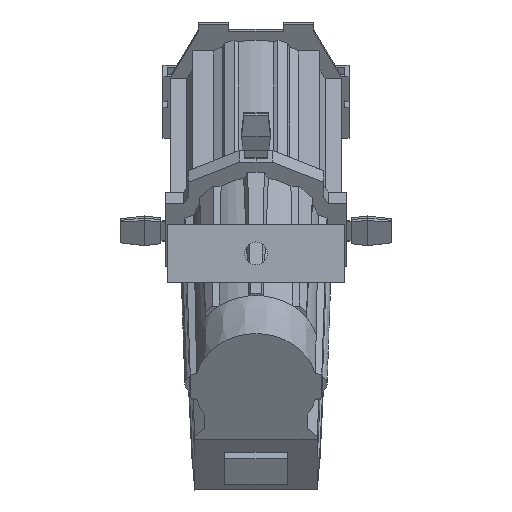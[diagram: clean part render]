
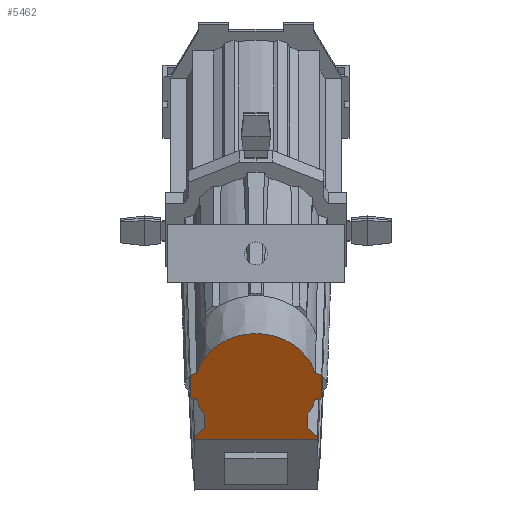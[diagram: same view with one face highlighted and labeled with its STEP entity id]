
A CAD part, left-side view. The second image highlights one B-rep face of the part: STEP entity #5462.
In plain terms, the highlighted planar face has unit normal (-0.866, 0, -0.5) as drawn and (0, 0, -1) by its records, which use the part's own axes.
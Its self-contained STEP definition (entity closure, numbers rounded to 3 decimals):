
#127=B_SPLINE_CURVE_WITH_KNOTS('',3,(#11054,#11055,#11056,#11057),
 .UNSPECIFIED.,.F.,.F.,(4,4),(0.001,0.141),
 .UNSPECIFIED.);
#128=B_SPLINE_CURVE_WITH_KNOTS('',3,(#11069,#11070,#11071,#11072,#11073,
#11074),.UNSPECIFIED.,.F.,.F.,(4,2,4),(0.045,0.221,
0.379),.UNSPECIFIED.);
#129=B_SPLINE_CURVE_WITH_KNOTS('',3,(#11088,#11089,#11090,#11091,#11092,
#11093),.UNSPECIFIED.,.F.,.F.,(4,2,4),(-0.932,-0.804,
-0.253),.UNSPECIFIED.);
#130=B_SPLINE_CURVE_WITH_KNOTS('',3,(#11094,#11095,#11096,#11097),
 .UNSPECIFIED.,.F.,.F.,(4,4),(-1.899,-1.761),
 .UNSPECIFIED.);
#388=FACE_OUTER_BOUND('',#690,.T.);
#690=EDGE_LOOP('',(#4378,#4379,#4380,#4381,#4382,#4383,#4384,#4385,#4386,
#4387,#4388,#4389,#4390,#4391,#4392,#4393,#4394));
#829=CIRCLE('',#5789,29.214);
#830=CIRCLE('',#5790,29.215);
#831=CIRCLE('',#5791,29.214);
#1263=LINE('',#11050,#1912);
#1264=LINE('',#11052,#1913);
#1265=LINE('',#11059,#1914);
#1266=LINE('',#11061,#1915);
#1267=LINE('',#11065,#1916);
#1268=LINE('',#11067,#1917);
#1269=LINE('',#11078,#1918);
#1270=LINE('',#11080,#1919);
#1271=LINE('',#11082,#1920);
#1272=LINE('',#11086,#1921);
#1912=VECTOR('',#6690,10.);
#1913=VECTOR('',#6691,10.);
#1914=VECTOR('',#6692,10.);
#1915=VECTOR('',#6693,10.);
#1916=VECTOR('',#6696,10.);
#1917=VECTOR('',#6697,10.);
#1918=VECTOR('',#6700,10.);
#1919=VECTOR('',#6701,10.);
#1920=VECTOR('',#6702,10.);
#1921=VECTOR('',#6705,10.);
#2475=VERTEX_POINT('',#11048);
#2476=VERTEX_POINT('',#11049);
#2477=VERTEX_POINT('',#11051);
#2478=VERTEX_POINT('',#11053);
#2479=VERTEX_POINT('',#11058);
#2480=VERTEX_POINT('',#11060);
#2481=VERTEX_POINT('',#11062);
#2482=VERTEX_POINT('',#11064);
#2483=VERTEX_POINT('',#11066);
#2484=VERTEX_POINT('',#11068);
#2485=VERTEX_POINT('',#11075);
#2486=VERTEX_POINT('',#11077);
#2487=VERTEX_POINT('',#11079);
#2488=VERTEX_POINT('',#11081);
#2489=VERTEX_POINT('',#11083);
#2490=VERTEX_POINT('',#11085);
#2491=VERTEX_POINT('',#11087);
#3155=EDGE_CURVE('',#2475,#2476,#1263,.T.);
#3156=EDGE_CURVE('',#2475,#2477,#1264,.T.);
#3157=EDGE_CURVE('',#2478,#2477,#127,.T.);
#3158=EDGE_CURVE('',#2478,#2479,#1265,.T.);
#3159=EDGE_CURVE('',#2479,#2480,#1266,.T.);
#3160=EDGE_CURVE('',#2480,#2481,#829,.T.);
#3161=EDGE_CURVE('',#2481,#2482,#1267,.T.);
#3162=EDGE_CURVE('',#2482,#2483,#1268,.T.);
#3163=EDGE_CURVE('',#2484,#2483,#128,.T.);
#3164=EDGE_CURVE('',#2484,#2485,#830,.T.);
#3165=EDGE_CURVE('',#2485,#2486,#1269,.T.);
#3166=EDGE_CURVE('',#2487,#2486,#1270,.T.);
#3167=EDGE_CURVE('',#2487,#2488,#1271,.T.);
#3168=EDGE_CURVE('',#2488,#2489,#831,.T.);
#3169=EDGE_CURVE('',#2489,#2490,#1272,.T.);
#3170=EDGE_CURVE('',#2490,#2491,#129,.T.);
#3171=EDGE_CURVE('',#2476,#2491,#130,.F.);
#4378=ORIENTED_EDGE('',*,*,#3155,.F.);
#4379=ORIENTED_EDGE('',*,*,#3156,.T.);
#4380=ORIENTED_EDGE('',*,*,#3157,.F.);
#4381=ORIENTED_EDGE('',*,*,#3158,.T.);
#4382=ORIENTED_EDGE('',*,*,#3159,.T.);
#4383=ORIENTED_EDGE('',*,*,#3160,.T.);
#4384=ORIENTED_EDGE('',*,*,#3161,.T.);
#4385=ORIENTED_EDGE('',*,*,#3162,.T.);
#4386=ORIENTED_EDGE('',*,*,#3163,.F.);
#4387=ORIENTED_EDGE('',*,*,#3164,.T.);
#4388=ORIENTED_EDGE('',*,*,#3165,.T.);
#4389=ORIENTED_EDGE('',*,*,#3166,.F.);
#4390=ORIENTED_EDGE('',*,*,#3167,.T.);
#4391=ORIENTED_EDGE('',*,*,#3168,.T.);
#4392=ORIENTED_EDGE('',*,*,#3169,.T.);
#4393=ORIENTED_EDGE('',*,*,#3170,.T.);
#4394=ORIENTED_EDGE('',*,*,#3171,.F.);
#5194=PLANE('',#5788);
#5462=ADVANCED_FACE('',(#388),#5194,.F.);
#5788=AXIS2_PLACEMENT_3D('',#11047,#6688,#6689);
#5789=AXIS2_PLACEMENT_3D('',#11063,#6694,#6695);
#5790=AXIS2_PLACEMENT_3D('',#11076,#6698,#6699);
#5791=AXIS2_PLACEMENT_3D('',#11084,#6703,#6704);
#6688=DIRECTION('center_axis',(0.,0.,
1.));
#6689=DIRECTION('ref_axis',(1.,0.,0.));
#6690=DIRECTION('',(0.,1.,0.));
#6691=DIRECTION('',(0.,-1.,0.));
#6692=DIRECTION('',(-0.706,0.709,0.));
#6693=DIRECTION('',(-1.,0.,0.));
#6694=DIRECTION('center_axis',(0.,0.,
-1.));
#6695=DIRECTION('ref_axis',(0.547,-0.837,0.));
#6696=DIRECTION('',(-0.301,-0.954,0.));
#6697=DIRECTION('',(-1.,0.,0.));
#6698=DIRECTION('center_axis',(0.,0.,
-1.));
#6699=DIRECTION('ref_axis',(-0.251,-0.968,0.));
#6700=DIRECTION('',(0.301,0.954,0.));
#6701=DIRECTION('',(-1.,0.,0.));
#6702=DIRECTION('',(0.301,-0.954,0.));
#6703=DIRECTION('center_axis',(0.,0.,
-1.));
#6704=DIRECTION('ref_axis',(0.251,0.968,0.));
#6705=DIRECTION('',(1.,0.,0.));
#11047=CARTESIAN_POINT('Origin',(20.953,0.,
-0.294));
#11048=CARTESIAN_POINT('',(29.214,4.984,-0.294));
#11049=CARTESIAN_POINT('',(29.214,29.267,-0.294));
#11050=CARTESIAN_POINT('',(29.214,4.984,-0.294));
#11051=CARTESIAN_POINT('',(29.214,-29.267,-0.294));
#11052=CARTESIAN_POINT('',(29.214,-21.594,-0.294));
#11053=CARTESIAN_POINT('',(27.81,-29.264,-0.294));
#11054=CARTESIAN_POINT('Ctrl Pts',(27.81,-29.264,-0.294));
#11055=CARTESIAN_POINT('Ctrl Pts',(28.278,-29.265,-0.294));
#11056=CARTESIAN_POINT('Ctrl Pts',(28.746,-29.266,-0.294));
#11057=CARTESIAN_POINT('Ctrl Pts',(29.214,-29.267,-0.294));
#11058=CARTESIAN_POINT('',(23.032,-24.464,-0.294));
#11059=CARTESIAN_POINT('',(23.032,-24.464,-0.294));
#11060=CARTESIAN_POINT('',(15.968,-24.464,-0.294));
#11061=CARTESIAN_POINT('',(15.968,-24.464,-0.294));
#11062=CARTESIAN_POINT('',(7.341,-28.276,-0.294));
#11063=CARTESIAN_POINT('Origin',(0.,0.,
-0.294));
#11064=CARTESIAN_POINT('',(6.336,-31.464,-0.294));
#11065=CARTESIAN_POINT('',(7.341,-28.276,-0.294));
#11066=CARTESIAN_POINT('',(-6.336,-31.464,-0.294));
#11067=CARTESIAN_POINT('',(14.031,-31.464,-0.294));
#11068=CARTESIAN_POINT('',(-7.341,-28.278,-0.294));
#11069=CARTESIAN_POINT('Ctrl Pts',(-7.341,-28.278,-0.294));
#11070=CARTESIAN_POINT('Ctrl Pts',(-7.164,-28.838,
-0.294));
#11071=CARTESIAN_POINT('Ctrl Pts',(-6.987,-29.398,
-0.294));
#11072=CARTESIAN_POINT('Ctrl Pts',(-6.653,-30.46,
-0.294));
#11073=CARTESIAN_POINT('Ctrl Pts',(-6.494,-30.962,
-0.294));
#11074=CARTESIAN_POINT('Ctrl Pts',(-6.336,-31.464,
-0.294));
#11075=CARTESIAN_POINT('',(-7.341,28.278,-0.294));
#11076=CARTESIAN_POINT('Origin',(0.,0.,
-0.294));
#11077=CARTESIAN_POINT('',(-6.336,31.464,-0.294));
#11078=CARTESIAN_POINT('',(-7.341,28.278,-0.294));
#11079=CARTESIAN_POINT('',(6.336,31.464,-0.294));
#11080=CARTESIAN_POINT('',(6.922,31.464,-0.294));
#11081=CARTESIAN_POINT('',(7.341,28.276,-0.294));
#11082=CARTESIAN_POINT('',(7.341,28.276,-0.294));
#11083=CARTESIAN_POINT('',(15.968,24.464,-0.294));
#11084=CARTESIAN_POINT('Origin',(0.,0.,
-0.294));
#11085=CARTESIAN_POINT('',(23.036,24.464,-0.294));
#11086=CARTESIAN_POINT('',(15.968,24.464,-0.294));
#11087=CARTESIAN_POINT('',(27.83,29.264,-0.294));
#11088=CARTESIAN_POINT('Ctrl Pts',(23.036,24.464,-0.294));
#11089=CARTESIAN_POINT('Ctrl Pts',(23.337,24.766,-0.294));
#11090=CARTESIAN_POINT('Ctrl Pts',(23.639,25.068,-0.294));
#11091=CARTESIAN_POINT('Ctrl Pts',(25.237,26.668,-0.294));
#11092=CARTESIAN_POINT('Ctrl Pts',(26.534,27.966,-0.294));
#11093=CARTESIAN_POINT('Ctrl Pts',(27.83,29.264,-0.294));
#11094=CARTESIAN_POINT('Ctrl Pts',(27.83,29.264,-0.294));
#11095=CARTESIAN_POINT('Ctrl Pts',(28.291,29.265,-0.294));
#11096=CARTESIAN_POINT('Ctrl Pts',(28.753,29.266,-0.294));
#11097=CARTESIAN_POINT('Ctrl Pts',(29.214,29.267,-0.294));
